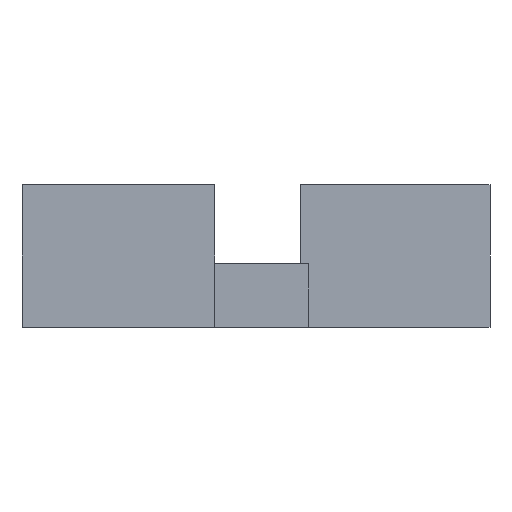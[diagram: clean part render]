
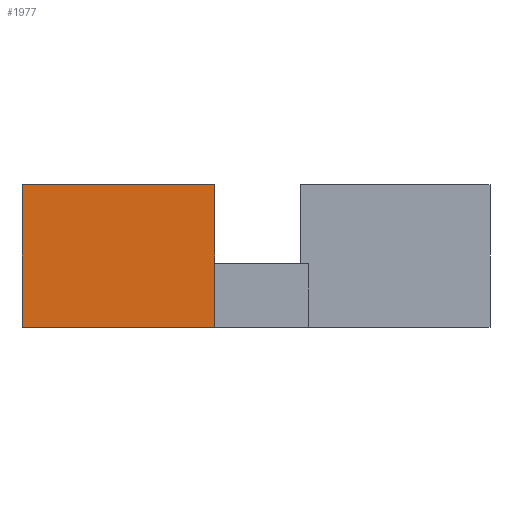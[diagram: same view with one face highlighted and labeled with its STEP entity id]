
A CAD part, left-side view. The second image highlights one B-rep face of the part: STEP entity #1977.
In plain terms, the highlighted planar face has unit normal (-1, 0, 0).
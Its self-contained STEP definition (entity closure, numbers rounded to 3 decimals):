
#100 = PLANE('',#101);
#101 = AXIS2_PLACEMENT_3D('',#102,#103,#104);
#102 = CARTESIAN_POINT('',(65.2,0.,0.));
#103 = DIRECTION('',(0.,0.,1.));
#104 = DIRECTION('',(1.,0.,0.));
#689 = PLANE('',#690);
#690 = AXIS2_PLACEMENT_3D('',#691,#692,#693);
#691 = CARTESIAN_POINT('',(0.,34.8,0.));
#692 = DIRECTION('',(0.,1.,0.));
#693 = DIRECTION('',(0.,0.,1.));
#869 = VERTEX_POINT('',#870);
#870 = CARTESIAN_POINT('',(0.,59.2,0.));
#884 = PLANE('',#885);
#885 = AXIS2_PLACEMENT_3D('',#886,#887,#888);
#886 = CARTESIAN_POINT('',(0.,59.2,0.));
#887 = DIRECTION('',(0.,1.,0.));
#888 = DIRECTION('',(0.,0.,1.));
#896 = EDGE_CURVE('',#897,#869,#899,.T.);
#897 = VERTEX_POINT('',#898);
#898 = CARTESIAN_POINT('',(0.,34.8,0.));
#899 = SURFACE_CURVE('',#900,(#904,#911),.PCURVE_S1.);
#900 = LINE('',#901,#902);
#901 = CARTESIAN_POINT('',(0.,34.8,0.));
#902 = VECTOR('',#903,1.);
#903 = DIRECTION('',(0.,1.,0.));
#904 = PCURVE('',#100,#905);
#905 = DEFINITIONAL_REPRESENTATION('',(#906),#910);
#906 = LINE('',#907,#908);
#907 = CARTESIAN_POINT('',(-65.2,34.8));
#908 = VECTOR('',#909,1.);
#909 = DIRECTION('',(0.,1.));
#910 = ( GEOMETRIC_REPRESENTATION_CONTEXT(2) 
PARAMETRIC_REPRESENTATION_CONTEXT() REPRESENTATION_CONTEXT('2D SPACE',''
  ) );
#911 = PCURVE('',#912,#917);
#912 = PLANE('',#913);
#913 = AXIS2_PLACEMENT_3D('',#914,#915,#916);
#914 = CARTESIAN_POINT('',(0.,34.8,0.));
#915 = DIRECTION('',(1.,0.,0.));
#916 = DIRECTION('',(0.,0.,1.));
#917 = DEFINITIONAL_REPRESENTATION('',(#918),#922);
#918 = LINE('',#919,#920);
#919 = CARTESIAN_POINT('',(0.,0.));
#920 = VECTOR('',#921,1.);
#921 = DIRECTION('',(0.,-1.));
#922 = ( GEOMETRIC_REPRESENTATION_CONTEXT(2) 
PARAMETRIC_REPRESENTATION_CONTEXT() REPRESENTATION_CONTEXT('2D SPACE',''
  ) );
#1522 = EDGE_CURVE('',#897,#1523,#1525,.T.);
#1523 = VERTEX_POINT('',#1524);
#1524 = CARTESIAN_POINT('',(0.,34.8,18.));
#1525 = SURFACE_CURVE('',#1526,(#1530,#1537),.PCURVE_S1.);
#1526 = LINE('',#1527,#1528);
#1527 = CARTESIAN_POINT('',(0.,34.8,0.));
#1528 = VECTOR('',#1529,1.);
#1529 = DIRECTION('',(0.,0.,1.));
#1530 = PCURVE('',#689,#1531);
#1531 = DEFINITIONAL_REPRESENTATION('',(#1532),#1536);
#1532 = LINE('',#1533,#1534);
#1533 = CARTESIAN_POINT('',(0.,0.));
#1534 = VECTOR('',#1535,1.);
#1535 = DIRECTION('',(1.,0.));
#1536 = ( GEOMETRIC_REPRESENTATION_CONTEXT(2) 
PARAMETRIC_REPRESENTATION_CONTEXT() REPRESENTATION_CONTEXT('2D SPACE',''
  ) );
#1537 = PCURVE('',#912,#1538);
#1538 = DEFINITIONAL_REPRESENTATION('',(#1539),#1543);
#1539 = LINE('',#1540,#1541);
#1540 = CARTESIAN_POINT('',(0.,0.));
#1541 = VECTOR('',#1542,1.);
#1542 = DIRECTION('',(1.,0.));
#1543 = ( GEOMETRIC_REPRESENTATION_CONTEXT(2) 
PARAMETRIC_REPRESENTATION_CONTEXT() REPRESENTATION_CONTEXT('2D SPACE',''
  ) );
#1561 = PLANE('',#1562);
#1562 = AXIS2_PLACEMENT_3D('',#1563,#1564,#1565);
#1563 = CARTESIAN_POINT('',(0.,34.8,18.));
#1564 = DIRECTION('',(0.,0.,1.));
#1565 = DIRECTION('',(1.,0.,0.));
#1977 = ADVANCED_FACE('',(#1978),#912,.F.);
#1978 = FACE_BOUND('',#1979,.F.);
#1979 = EDGE_LOOP('',(#1980,#1981,#1982,#2005));
#1980 = ORIENTED_EDGE('',*,*,#1522,.F.);
#1981 = ORIENTED_EDGE('',*,*,#896,.T.);
#1982 = ORIENTED_EDGE('',*,*,#1983,.T.);
#1983 = EDGE_CURVE('',#869,#1984,#1986,.T.);
#1984 = VERTEX_POINT('',#1985);
#1985 = CARTESIAN_POINT('',(0.,59.2,18.));
#1986 = SURFACE_CURVE('',#1987,(#1991,#1998),.PCURVE_S1.);
#1987 = LINE('',#1988,#1989);
#1988 = CARTESIAN_POINT('',(0.,59.2,0.));
#1989 = VECTOR('',#1990,1.);
#1990 = DIRECTION('',(0.,0.,1.));
#1991 = PCURVE('',#912,#1992);
#1992 = DEFINITIONAL_REPRESENTATION('',(#1993),#1997);
#1993 = LINE('',#1994,#1995);
#1994 = CARTESIAN_POINT('',(0.,-24.4));
#1995 = VECTOR('',#1996,1.);
#1996 = DIRECTION('',(1.,0.));
#1997 = ( GEOMETRIC_REPRESENTATION_CONTEXT(2) 
PARAMETRIC_REPRESENTATION_CONTEXT() REPRESENTATION_CONTEXT('2D SPACE',''
  ) );
#1998 = PCURVE('',#884,#1999);
#1999 = DEFINITIONAL_REPRESENTATION('',(#2000),#2004);
#2000 = LINE('',#2001,#2002);
#2001 = CARTESIAN_POINT('',(0.,0.));
#2002 = VECTOR('',#2003,1.);
#2003 = DIRECTION('',(1.,0.));
#2004 = ( GEOMETRIC_REPRESENTATION_CONTEXT(2) 
PARAMETRIC_REPRESENTATION_CONTEXT() REPRESENTATION_CONTEXT('2D SPACE',''
  ) );
#2005 = ORIENTED_EDGE('',*,*,#2006,.F.);
#2006 = EDGE_CURVE('',#1523,#1984,#2007,.T.);
#2007 = SURFACE_CURVE('',#2008,(#2012,#2019),.PCURVE_S1.);
#2008 = LINE('',#2009,#2010);
#2009 = CARTESIAN_POINT('',(0.,34.8,18.));
#2010 = VECTOR('',#2011,1.);
#2011 = DIRECTION('',(0.,1.,0.));
#2012 = PCURVE('',#912,#2013);
#2013 = DEFINITIONAL_REPRESENTATION('',(#2014),#2018);
#2014 = LINE('',#2015,#2016);
#2015 = CARTESIAN_POINT('',(18.,0.));
#2016 = VECTOR('',#2017,1.);
#2017 = DIRECTION('',(0.,-1.));
#2018 = ( GEOMETRIC_REPRESENTATION_CONTEXT(2) 
PARAMETRIC_REPRESENTATION_CONTEXT() REPRESENTATION_CONTEXT('2D SPACE',''
  ) );
#2019 = PCURVE('',#1561,#2020);
#2020 = DEFINITIONAL_REPRESENTATION('',(#2021),#2025);
#2021 = LINE('',#2022,#2023);
#2022 = CARTESIAN_POINT('',(0.,0.));
#2023 = VECTOR('',#2024,1.);
#2024 = DIRECTION('',(0.,1.));
#2025 = ( GEOMETRIC_REPRESENTATION_CONTEXT(2) 
PARAMETRIC_REPRESENTATION_CONTEXT() REPRESENTATION_CONTEXT('2D SPACE',''
  ) );
